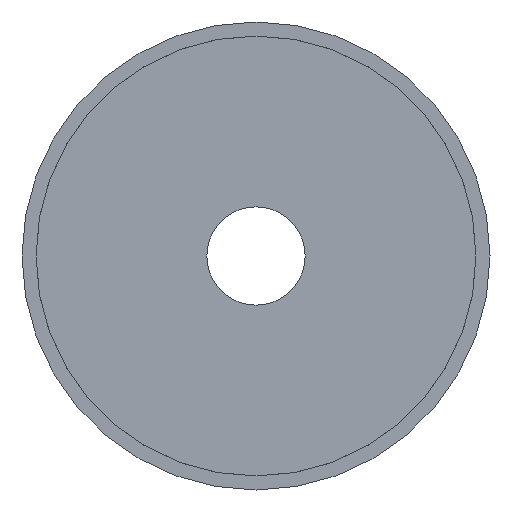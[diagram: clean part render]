
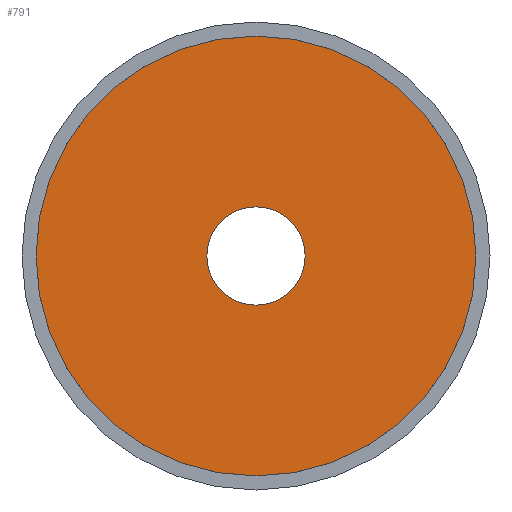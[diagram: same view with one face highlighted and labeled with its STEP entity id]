
A CAD part, front view. The second image highlights one B-rep face of the part: STEP entity #791.
In plain terms, the highlighted planar face has unit normal (0, -1, 0).
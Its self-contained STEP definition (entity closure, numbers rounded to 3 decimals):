
#15 = CARTESIAN_POINT ( 'NONE',  ( 0., -30., -46.99 ) ) ;
#28 = EDGE_CURVE ( 'NONE', #769, #824, #677, .T. ) ;
#30 = CARTESIAN_POINT ( 'NONE',  ( -50., -30., 0. ) ) ;
#47 = VERTEX_POINT ( 'NONE', #657 ) ;
#87 = AXIS2_PLACEMENT_3D ( 'NONE', #203, #129, #480 ) ;
#129 = DIRECTION ( 'NONE',  ( 0., -1., 0. ) ) ;
#148 = EDGE_CURVE ( 'NONE', #47, #636, #530, .T. ) ;
#155 = CARTESIAN_POINT ( 'NONE',  ( 0., -30., 0. ) ) ;
#203 = CARTESIAN_POINT ( 'NONE',  ( 0., -30., 0. ) ) ;
#219 = CARTESIAN_POINT ( 'NONE',  ( -10.5, -30., 0. ) ) ;
#240 = CARTESIAN_POINT ( 'NONE',  ( 0., -30., 46.99 ) ) ;
#379 = FACE_BOUND ( 'NONE', #447, .T. ) ;
#386 = CARTESIAN_POINT ( 'NONE',  ( 0., -30., 0. ) ) ;
#391 = PLANE ( 'NONE',  #428 ) ;
#402 = AXIS2_PLACEMENT_3D ( 'NONE', #155, #745, #884 ) ;
#428 = AXIS2_PLACEMENT_3D ( 'NONE', #30, #749, #622 ) ;
#447 = EDGE_LOOP ( 'NONE', ( #951, #639 ) ) ;
#480 = DIRECTION ( 'NONE',  ( 0., 0., -1. ) ) ;
#484 = AXIS2_PLACEMENT_3D ( 'NONE', #386, #546, #832 ) ;
#497 = ORIENTED_EDGE ( 'NONE', *, *, #28, .T. ) ;
#511 = DIRECTION ( 'NONE',  ( 0., 1., 0. ) ) ;
#530 = CIRCLE ( 'NONE', #402, 10.5 ) ;
#546 = DIRECTION ( 'NONE',  ( 0., -1., 0. ) ) ;
#582 = CIRCLE ( 'NONE', #484, 46.99 ) ;
#622 = DIRECTION ( 'NONE',  ( 1., 0., 0. ) ) ;
#636 = VERTEX_POINT ( 'NONE', #219 ) ;
#639 = ORIENTED_EDGE ( 'NONE', *, *, #148, .T. ) ;
#657 = CARTESIAN_POINT ( 'NONE',  ( 10.5, -30., 0. ) ) ;
#677 = CIRCLE ( 'NONE', #87, 46.99 ) ;
#700 = FACE_OUTER_BOUND ( 'NONE', #739, .T. ) ;
#714 = EDGE_CURVE ( 'NONE', #636, #47, #876, .T. ) ;
#739 = EDGE_LOOP ( 'NONE', ( #879, #497 ) ) ;
#745 = DIRECTION ( 'NONE',  ( 0., 1., 0. ) ) ;
#749 = DIRECTION ( 'NONE',  ( 0., -1., 0. ) ) ;
#766 = AXIS2_PLACEMENT_3D ( 'NONE', #815, #511, #889 ) ;
#769 = VERTEX_POINT ( 'NONE', #240 ) ;
#786 = EDGE_CURVE ( 'NONE', #824, #769, #582, .T. ) ;
#791 = ADVANCED_FACE ( 'NONE', ( #379, #700 ), #391, .T. ) ;
#815 = CARTESIAN_POINT ( 'NONE',  ( 0., -30., 0. ) ) ;
#824 = VERTEX_POINT ( 'NONE', #15 ) ;
#832 = DIRECTION ( 'NONE',  ( 0., 0., -1. ) ) ;
#876 = CIRCLE ( 'NONE', #766, 10.5 ) ;
#879 = ORIENTED_EDGE ( 'NONE', *, *, #786, .T. ) ;
#884 = DIRECTION ( 'NONE',  ( -1., 0., 0. ) ) ;
#889 = DIRECTION ( 'NONE',  ( -1., 0., 0. ) ) ;
#951 = ORIENTED_EDGE ( 'NONE', *, *, #714, .T. ) ;
